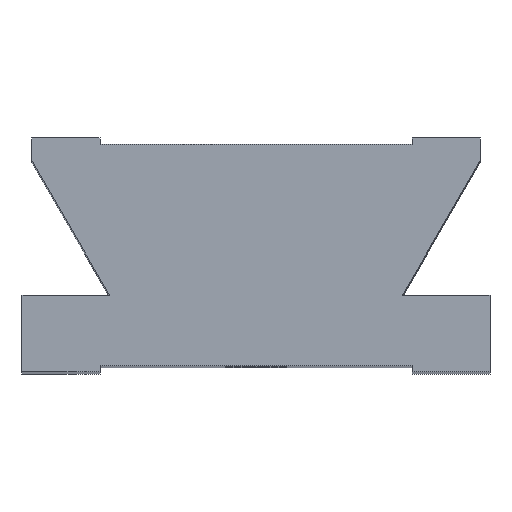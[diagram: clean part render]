
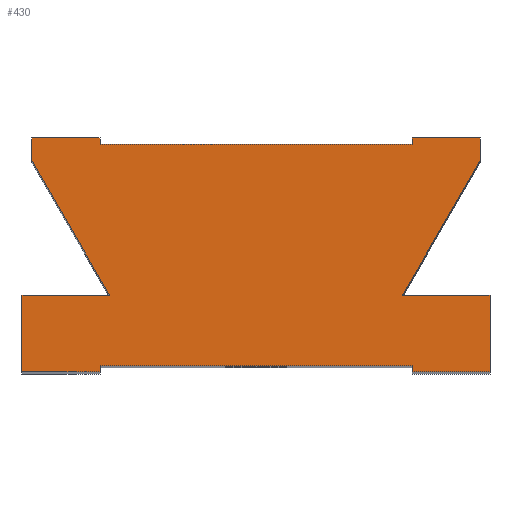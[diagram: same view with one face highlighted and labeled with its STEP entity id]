
A CAD part, top view. The second image highlights one B-rep face of the part: STEP entity #430.
In plain terms, the highlighted planar face has unit normal (0, 0, 1).
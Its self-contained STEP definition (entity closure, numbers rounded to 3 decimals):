
#17=LINE('',#595,#71);
#20=LINE('',#601,#74);
#23=LINE('',#607,#77);
#25=LINE('',#611,#79);
#30=LINE('',#620,#84);
#45=LINE('',#650,#99);
#46=LINE('',#653,#100);
#49=LINE('',#658,#103);
#50=LINE('',#661,#104);
#51=LINE('',#663,#105);
#52=LINE('',#665,#106);
#53=LINE('',#667,#107);
#54=LINE('',#669,#108);
#55=LINE('',#671,#109);
#56=LINE('',#673,#110);
#57=LINE('',#675,#111);
#58=LINE('',#677,#112);
#59=LINE('',#678,#113);
#71=VECTOR('',#487,0.254);
#74=VECTOR('',#492,12.7);
#77=VECTOR('',#497,0.254);
#79=VECTOR('',#501,2.774);
#84=VECTOR('',#508,2.774);
#99=VECTOR('',#527,0.914);
#100=VECTOR('',#530,0.914);
#103=VECTOR('',#535,6.335);
#104=VECTOR('',#538,3.569);
#105=VECTOR('',#539,3.124);
#106=VECTOR('',#540,3.175);
#107=VECTOR('',#541,0.254);
#108=VECTOR('',#542,12.7);
#109=VECTOR('',#543,0.254);
#110=VECTOR('',#544,3.175);
#111=VECTOR('',#545,3.124);
#112=VECTOR('',#546,3.569);
#113=VECTOR('',#547,6.335);
#132=PLANE('',#458);
#160=FACE_OUTER_BOUND('',#186,.T.);
#186=EDGE_LOOP('',(#357,#358,#359,#360,#361,#362,#363,#364,#365,#366,#367,
#368,#369,#370,#371,#372,#373,#374));
#209=VERTEX_POINT('',#592);
#210=VERTEX_POINT('',#594);
#212=VERTEX_POINT('',#600);
#214=VERTEX_POINT('',#606);
#215=VERTEX_POINT('',#610);
#218=VERTEX_POINT('',#618);
#231=VERTEX_POINT('',#648);
#232=VERTEX_POINT('',#652);
#233=VERTEX_POINT('',#656);
#234=VERTEX_POINT('',#660);
#235=VERTEX_POINT('',#662);
#236=VERTEX_POINT('',#664);
#237=VERTEX_POINT('',#666);
#238=VERTEX_POINT('',#668);
#239=VERTEX_POINT('',#670);
#240=VERTEX_POINT('',#672);
#241=VERTEX_POINT('',#674);
#242=VERTEX_POINT('',#676);
#249=EDGE_CURVE('',#210,#209,#17,.T.);
#252=EDGE_CURVE('',#212,#210,#20,.T.);
#255=EDGE_CURVE('',#214,#212,#23,.T.);
#257=EDGE_CURVE('',#215,#214,#25,.T.);
#262=EDGE_CURVE('',#209,#218,#30,.T.);
#277=EDGE_CURVE('',#218,#231,#45,.T.);
#278=EDGE_CURVE('',#232,#215,#46,.T.);
#281=EDGE_CURVE('',#231,#233,#49,.T.);
#282=EDGE_CURVE('',#233,#234,#50,.T.);
#283=EDGE_CURVE('',#234,#235,#51,.T.);
#284=EDGE_CURVE('',#235,#236,#52,.T.);
#285=EDGE_CURVE('',#236,#237,#53,.T.);
#286=EDGE_CURVE('',#237,#238,#54,.T.);
#287=EDGE_CURVE('',#238,#239,#55,.T.);
#288=EDGE_CURVE('',#239,#240,#56,.T.);
#289=EDGE_CURVE('',#240,#241,#57,.T.);
#290=EDGE_CURVE('',#241,#242,#58,.T.);
#291=EDGE_CURVE('',#242,#232,#59,.T.);
#357=ORIENTED_EDGE('',*,*,#249,.T.);
#358=ORIENTED_EDGE('',*,*,#262,.T.);
#359=ORIENTED_EDGE('',*,*,#277,.T.);
#360=ORIENTED_EDGE('',*,*,#281,.T.);
#361=ORIENTED_EDGE('',*,*,#282,.T.);
#362=ORIENTED_EDGE('',*,*,#283,.T.);
#363=ORIENTED_EDGE('',*,*,#284,.T.);
#364=ORIENTED_EDGE('',*,*,#285,.T.);
#365=ORIENTED_EDGE('',*,*,#286,.T.);
#366=ORIENTED_EDGE('',*,*,#287,.T.);
#367=ORIENTED_EDGE('',*,*,#288,.T.);
#368=ORIENTED_EDGE('',*,*,#289,.T.);
#369=ORIENTED_EDGE('',*,*,#290,.T.);
#370=ORIENTED_EDGE('',*,*,#291,.T.);
#371=ORIENTED_EDGE('',*,*,#278,.T.);
#372=ORIENTED_EDGE('',*,*,#257,.T.);
#373=ORIENTED_EDGE('',*,*,#255,.T.);
#374=ORIENTED_EDGE('',*,*,#252,.T.);
#430=ADVANCED_FACE('',(#160),#132,.T.);
#458=AXIS2_PLACEMENT_3D('',#659,#536,#537);
#487=DIRECTION('',(0.,1.,0.));
#492=DIRECTION('',(-1.,0.,0.));
#497=DIRECTION('',(0.,-1.,0.));
#501=DIRECTION('',(-1.,0.,0.));
#508=DIRECTION('',(-1.,0.,0.));
#527=DIRECTION('',(0.,-1.,0.));
#530=DIRECTION('',(0.,1.,0.));
#535=DIRECTION('',(0.5,-0.866,0.));
#536=DIRECTION('center_axis',(0.,0.,1.));
#537=DIRECTION('ref_axis',(1.,0.,0.));
#538=DIRECTION('',(-1.,0.,0.));
#539=DIRECTION('',(0.,-1.,0.));
#540=DIRECTION('',(1.,0.,0.));
#541=DIRECTION('',(0.,1.,0.));
#542=DIRECTION('',(1.,0.,0.));
#543=DIRECTION('',(0.,-1.,0.));
#544=DIRECTION('',(1.,0.,0.));
#545=DIRECTION('',(0.,1.,0.));
#546=DIRECTION('',(-1.,0.,0.));
#547=DIRECTION('',(0.5,0.866,0.));
#592=CARTESIAN_POINT('',(-6.35,4.763,23.5));
#594=CARTESIAN_POINT('',(-6.35,4.509,23.5));
#595=CARTESIAN_POINT('',(-6.35,2.211,23.5));
#600=CARTESIAN_POINT('',(6.35,4.509,23.5));
#601=CARTESIAN_POINT('',(5.594,4.509,23.5));
#606=CARTESIAN_POINT('',(6.35,4.763,23.5));
#607=CARTESIAN_POINT('',(6.35,2.338,23.5));
#610=CARTESIAN_POINT('',(9.124,4.763,23.5));
#611=CARTESIAN_POINT('',(9.652,4.763,23.5));
#618=CARTESIAN_POINT('',(-9.124,4.763,23.5));
#620=CARTESIAN_POINT('',(9.652,4.763,23.5));
#648=CARTESIAN_POINT('',(-9.124,3.848,23.5));
#650=CARTESIAN_POINT('',(-9.124,2.338,23.5));
#652=CARTESIAN_POINT('',(9.124,3.848,23.5));
#653=CARTESIAN_POINT('',(9.124,1.881,23.5));
#656=CARTESIAN_POINT('',(-5.956,-1.638,23.5));
#658=CARTESIAN_POINT('',(-9.652,4.763,23.5));
#659=CARTESIAN_POINT('Origin',(4.838,-0.086,23.5));
#660=CARTESIAN_POINT('',(-9.525,-1.638,23.5));
#661=CARTESIAN_POINT('',(-5.956,-1.638,23.5));
#662=CARTESIAN_POINT('',(-9.525,-4.763,23.5));
#663=CARTESIAN_POINT('',(-9.525,-1.638,23.5));
#664=CARTESIAN_POINT('',(-6.35,-4.763,23.5));
#665=CARTESIAN_POINT('',(-9.525,-4.763,23.5));
#666=CARTESIAN_POINT('',(-6.35,-4.509,23.5));
#667=CARTESIAN_POINT('',(-6.35,-2.424,23.5));
#668=CARTESIAN_POINT('',(6.35,-4.509,23.5));
#669=CARTESIAN_POINT('',(-0.756,-4.509,23.5));
#670=CARTESIAN_POINT('',(6.35,-4.763,23.5));
#671=CARTESIAN_POINT('',(6.35,-2.297,23.5));
#672=CARTESIAN_POINT('',(9.525,-4.763,23.5));
#673=CARTESIAN_POINT('',(-9.525,-4.763,23.5));
#674=CARTESIAN_POINT('',(9.525,-1.638,23.5));
#675=CARTESIAN_POINT('',(9.525,-4.763,23.5));
#676=CARTESIAN_POINT('',(5.956,-1.638,23.5));
#677=CARTESIAN_POINT('',(9.525,-1.638,23.5));
#678=CARTESIAN_POINT('',(5.956,-1.638,23.5));
